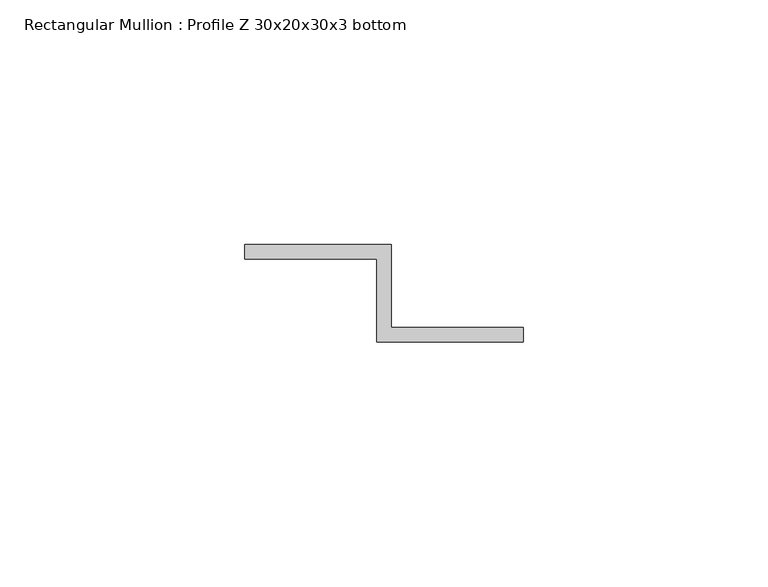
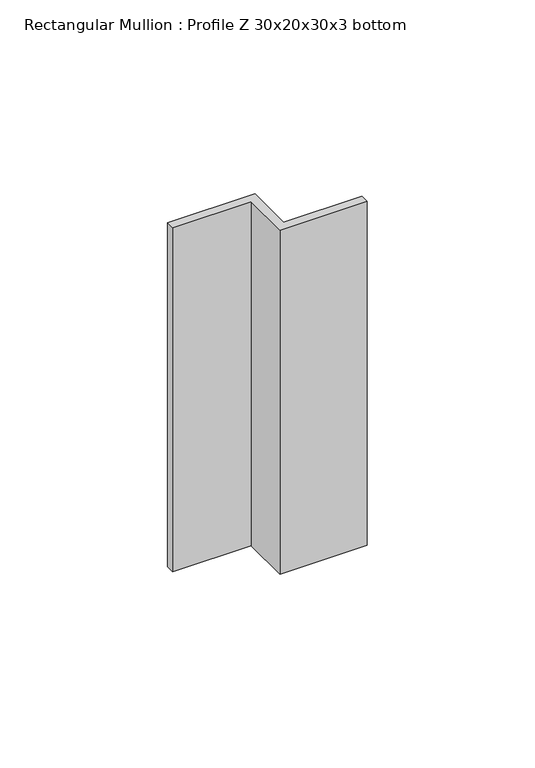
"""IFC4 building model written with IfcOpenShell, lengths in millimetres: member geometry, Rectangular Mullion : Profile Z 30x20x30x3 bottom."""

from ifc_helpers import new_model, si_unit, frame, origin, place, context, project, spatial, polyline, outline, extrude, source, transform, mapped, element, save


def rectangular_mullion_profile_z_30x20x30x3_bottom_7d50e40c(model_context):
    return source(origin(), model_context, "Body", "SweptSolid", [
        extrude(outline(polyline([(-30.5, -29.5), (-30.5, -46.5), (-3.5, -46.5), (-3.5, -49.5), (-33.5, -49.5), (-33.5, -32.5), (-60.5, -32.5), (-60.5, -29.5), (-30.5, -29.5)])), frame((0.0, 0.0, -125.0000001), z_axis=(0.0, 0.0, 1.0), x_axis=(1.0, 0.0, 0.0)), (0.0, 0.0, 1.0), 125.0000001),
    ])


if __name__ == "__main__":
    model = new_model("IFC4")
    model_context = context("Model", 3, world=origin())
    ifc_project = project(units=[si_unit("LENGTHUNIT", "METRE", prefix="MILLI")], contexts=[model_context])
    site = spatial("IfcSite", under=ifc_project)
    building = spatial("IfcBuilding", under=site)
    placement = place(None, origin())
    rectangular_mullion_profile_z_30x20x30x3_bottom_shape = rectangular_mullion_profile_z_30x20x30x3_bottom_7d50e40c(model_context)
    element("IfcMember", 1, ObjectType="Rectangular Mullion : Profile Z 30x20x30x3 bottom", at=placement, inside=building, context=model_context, shape_type="MappedRepresentation", body=[
        mapped(rectangular_mullion_profile_z_30x20x30x3_bottom_shape, transform((0.0, 0.0, 0.0), x_axis=(1.0, 0.0, 0.0), y_axis=(0.0, 1.0, 0.0), z_axis=(0.0, 0.0, 1.0))),
    ])
    save(model, "model.ifc")
